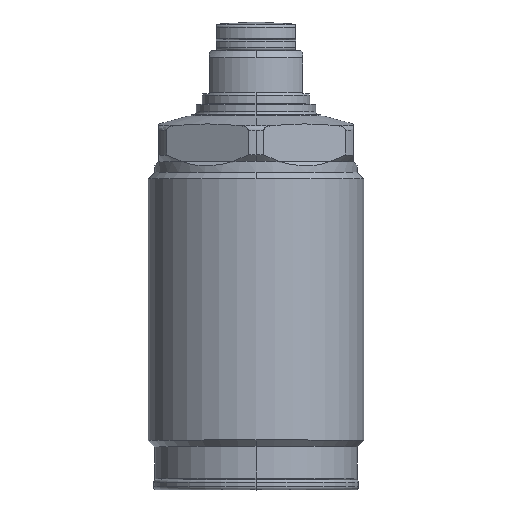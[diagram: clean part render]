
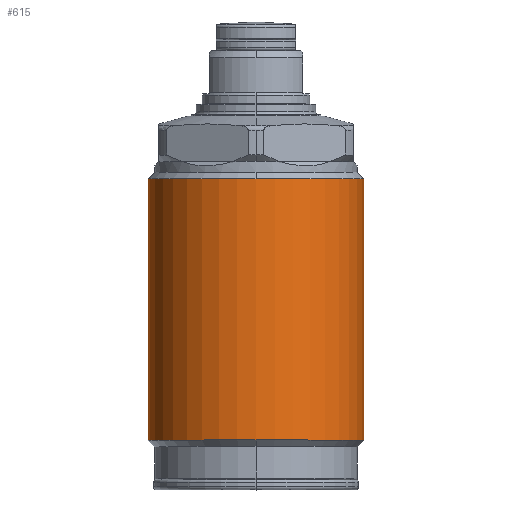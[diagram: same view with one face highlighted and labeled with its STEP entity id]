
A CAD part, top view. The second image highlights one B-rep face of the part: STEP entity #615.
In plain terms, the highlighted cylindrical face has radius 15 mm (diameter 30 mm), a full revolution.
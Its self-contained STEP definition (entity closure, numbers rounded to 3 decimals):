
#322=FACE_BOUND('',#988,.T.);
#323=FACE_BOUND('',#989,.T.);
#356=CYLINDRICAL_SURFACE('',#2806,15.);
#407=LINE('',#4147,#506);
#408=LINE('',#4152,#507);
#409=LINE('',#4155,#508);
#410=LINE('',#4160,#509);
#506=VECTOR('',#3249,1.);
#507=VECTOR('',#3252,1.);
#508=VECTOR('',#3255,1.);
#509=VECTOR('',#3258,1.);
#615=ADVANCED_FACE('',(#322,#323),#356,.T.);
#988=EDGE_LOOP('',(#1211,#1212,#1213,#1214,#1215,#1216));
#989=EDGE_LOOP('',(#1217,#1218,#1219,#1220,#1221,#1222));
#1211=ORIENTED_EDGE('',*,*,#2184,.T.);
#1212=ORIENTED_EDGE('',*,*,#2185,.T.);
#1213=ORIENTED_EDGE('',*,*,#2186,.F.);
#1214=ORIENTED_EDGE('',*,*,#2186,.T.);
#1215=ORIENTED_EDGE('',*,*,#2187,.T.);
#1216=ORIENTED_EDGE('',*,*,#2184,.F.);
#1217=ORIENTED_EDGE('',*,*,#2188,.T.);
#1218=ORIENTED_EDGE('',*,*,#2188,.F.);
#1219=ORIENTED_EDGE('',*,*,#2189,.F.);
#1220=ORIENTED_EDGE('',*,*,#2190,.T.);
#1221=ORIENTED_EDGE('',*,*,#2190,.F.);
#1222=ORIENTED_EDGE('',*,*,#2191,.F.);
#1941=VERTEX_POINT('',#4148);
#1942=VERTEX_POINT('',#4149);
#1943=VERTEX_POINT('',#4151);
#1944=VERTEX_POINT('',#4153);
#1945=VERTEX_POINT('',#4156);
#1946=VERTEX_POINT('',#4157);
#1947=VERTEX_POINT('',#4159);
#1948=VERTEX_POINT('',#4161);
#2184=EDGE_CURVE('',#1941,#1942,#407,.T.);
#2185=EDGE_CURVE('',#1942,#1943,#2564,.T.);
#2186=EDGE_CURVE('',#1944,#1943,#408,.T.);
#2187=EDGE_CURVE('',#1943,#1942,#2565,.T.);
#2188=EDGE_CURVE('',#1945,#1946,#409,.T.);
#2189=EDGE_CURVE('',#1947,#1945,#2566,.T.);
#2190=EDGE_CURVE('',#1947,#1948,#410,.T.);
#2191=EDGE_CURVE('',#1945,#1947,#2567,.T.);
#2564=CIRCLE('',#2802,15.);
#2565=CIRCLE('',#2803,15.);
#2566=CIRCLE('',#2804,15.);
#2567=CIRCLE('',#2805,15.);
#2802=AXIS2_PLACEMENT_3D('',#4150,#3250,#3251);
#2803=AXIS2_PLACEMENT_3D('',#4154,#3253,#3254);
#2804=AXIS2_PLACEMENT_3D('',#4158,#3256,#3257);
#2805=AXIS2_PLACEMENT_3D('',#4162,#3259,#3260);
#2806=AXIS2_PLACEMENT_3D('',#4163,#3261,#3262);
#3249=DIRECTION('',(0.,1.,0.));
#3250=DIRECTION('',(0.,-1.,0.));
#3251=DIRECTION('',(0.,0.,-1.));
#3252=DIRECTION('',(0.,1.,0.));
#3253=DIRECTION('',(0.,-1.,0.));
#3254=DIRECTION('',(0.,0.,-1.));
#3255=DIRECTION('',(0.,1.,0.));
#3256=DIRECTION('',(0.,-1.,0.));
#3257=DIRECTION('',(0.,0.,-1.));
#3258=DIRECTION('',(0.,1.,0.));
#3259=DIRECTION('',(0.,-1.,0.));
#3260=DIRECTION('',(0.,0.,-1.));
#3261=DIRECTION('',(0.,-1.,0.));
#3262=DIRECTION('',(0.,0.,1.));
#4147=CARTESIAN_POINT('',(0.,0.,-15.));
#4148=CARTESIAN_POINT('',(0.,40.3,-15.));
#4149=CARTESIAN_POINT('',(0.,41.9,-15.));
#4150=CARTESIAN_POINT('',(0.,41.9,0.));
#4151=CARTESIAN_POINT('',(0.,41.9,15.));
#4152=CARTESIAN_POINT('',(0.,0.,15.));
#4153=CARTESIAN_POINT('',(0.,40.3,15.));
#4154=CARTESIAN_POINT('',(0.,41.9,0.));
#4155=CARTESIAN_POINT('',(0.,0.,-15.));
#4156=CARTESIAN_POINT('',(0.,5.6,-15.));
#4157=CARTESIAN_POINT('',(0.,34.3,-15.));
#4158=CARTESIAN_POINT('',(0.,5.6,0.));
#4159=CARTESIAN_POINT('',(0.,5.6,15.));
#4160=CARTESIAN_POINT('',(0.,0.,15.));
#4161=CARTESIAN_POINT('',(0.,34.3,15.));
#4162=CARTESIAN_POINT('',(0.,5.6,0.));
#4163=CARTESIAN_POINT('',(0.,0.,0.));
